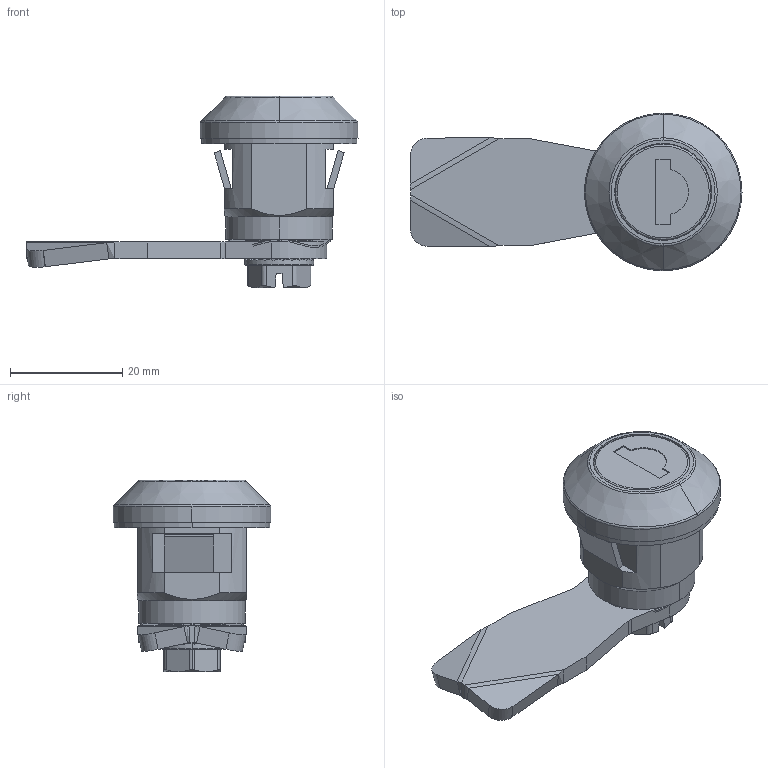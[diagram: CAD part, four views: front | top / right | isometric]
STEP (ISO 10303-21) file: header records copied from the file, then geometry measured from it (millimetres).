
FILE_DESCRIPTION (( 'STEP AP214' ), '1' );
FILE_NAME ('M22ZW_180.STEP', '2016-08-22T08:30:13', ( 'Krzysiek' ), ( '' ), 'SwSTEP 2.0', 'SolidWorks 2015', '' );
FILE_SCHEMA (( 'AUTOMOTIVE_DESIGN' ));
Length unit declared in the file: millimetre
Products named in the file (7): DIN 6921_M6x6; 2.IP65.002_A; Podk-adka falista (4x giàta)_A; 1C.J-1XX.GH.L_#3, 1.00.18.45; Wk-adka 1333_1333 IP; 2.K.M22ZW.002_180; M22ZW_180
Assembly tree (6 placements, depth 2):
  M22ZW_180
    2.K.M22ZW.002_180
    Wk-adka 1333_1333 IP
    1C.J-1XX.GH.L_#3, 1.00.18.45
    Podk-adka falista (4x giàta)_A
    2.IP65.002_A
    DIN 6921_M6x6
Bounding box: 59.22 x 28.13 x 34.16 mm (x, y, z)
Volume: 12305.6 mm3; surface area: 9594.3 mm2
Topology: 6 solids, 6 shells, 316 faces, 815 edges, 524 vertices
Faces by surface type: plane 187, cylinder 78, cone 28, bspline 23
Entity records: 11354 total; most frequent: CARTESIAN_POINT 3732, ORIENTED_EDGE 1626, DIRECTION 1446, EDGE_CURVE 813, VERTEX_POINT 524, AXIS2_PLACEMENT_3D 512, VECTOR 422, LINE 422
